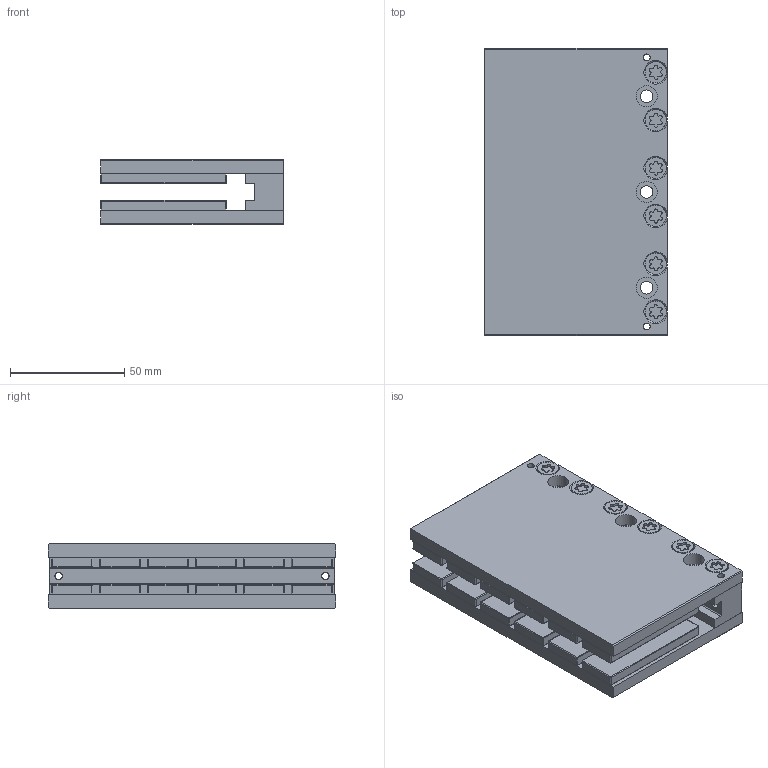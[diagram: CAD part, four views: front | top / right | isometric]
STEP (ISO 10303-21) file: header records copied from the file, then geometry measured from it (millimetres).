
FILE_DESCRIPTION( ( '-' ), '1' );
FILE_NAME( 'C:/Users/peikelboom/Desktop/STEP Files/Ironless/UL/Iron Less_UL 126 mm_MagnetYoke 160607.stp', '20-04-2016', ( 'P.Eikelboom' ), ( 'Technotion' ), 'PSStep 16.0.42', '-', ' ' );
FILE_SCHEMA( ( 'AUTOMOTIVE_DESIGN { 1 0 10303 214 1 1 1 1 }' ) );
Length unit declared in the file: millimetre
Products named in the file (1): 4022 363 82574_080709
Bounding box: 80 x 125.92 x 28.4 mm (x, y, z)
Surface area: 60224.5 mm2 (no closed solid volume)
Topology: 0 solids, 763 shells, 763 faces, 3697 edges, 3597 vertices
Faces by surface type: cylinder 345, plane 280, bspline 96, cone 42
Full cylindrical faces by diameter (mm): 3 x2, 3.242 x2, 4.2 x6, 5 x12, 5.5 x15, 9.2 x6, 9.3 x12
Entity records: 43970 total; most frequent: CARTESIAN_POINT 9780, DIRECTION 6476, ORIENTED_EDGE 3536, EDGE_CURVE 3536, VERTEX_POINT 3536, AXIS2_PLACEMENT_3D 2300, LINE 1876, VECTOR 1876
